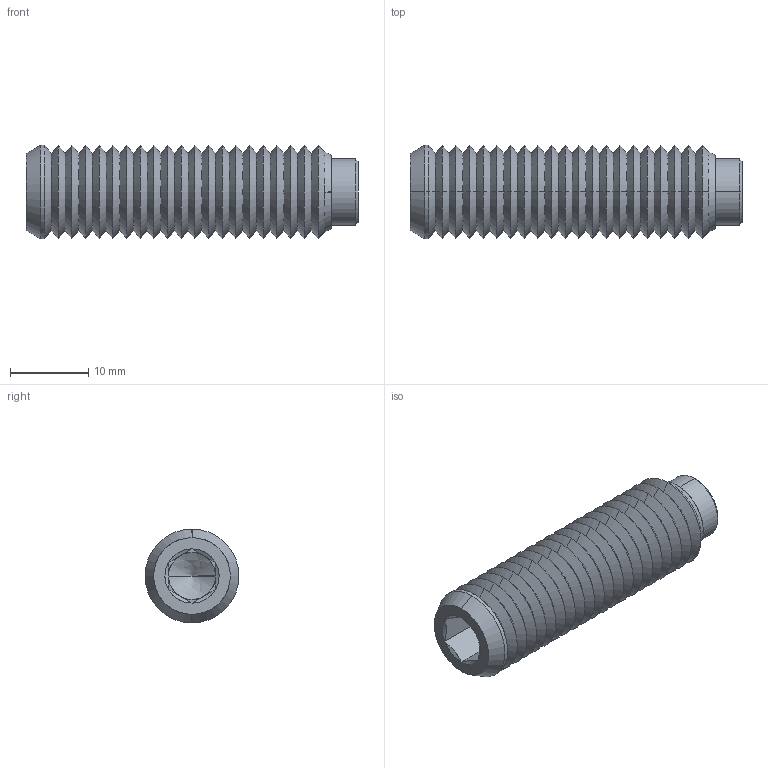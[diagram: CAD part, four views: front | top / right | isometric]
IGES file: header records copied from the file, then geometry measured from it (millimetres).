
Start section: SolidWorks IGES file using analytic representation for surfaces
Global section: file name: C:\Users\IanO\Desktop\P0120_v2_230406\P0120_v2_20230506_IGES\P0120.120-042.igs; native system: SolidWorks 2019; preprocessor: SolidWorks 2019; author: IanO; date: 230406.142620; units: millimetre
Bounding box: 42.5 x 12 x 12 mm (x, y, z)
Surface area: 2736 mm2 (no closed solid volume)
Topology: 0 solids, 0 shells, 119 faces, 734 edges, 732 vertices
Faces by surface type: revolution 102, bspline 17
